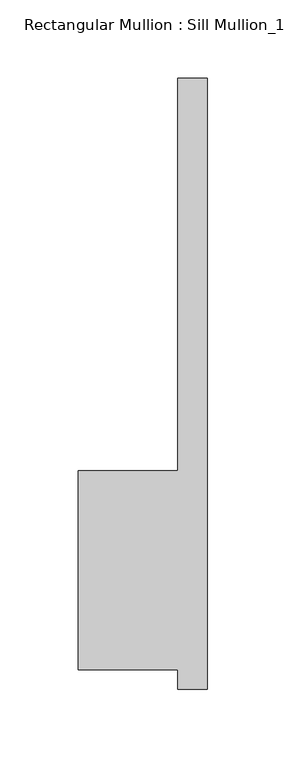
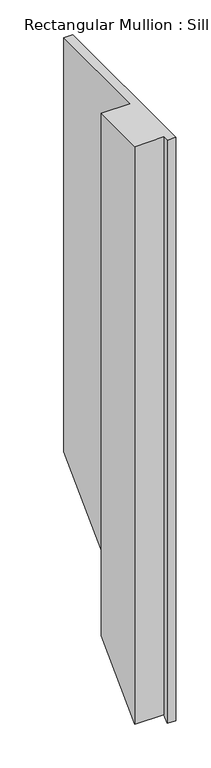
"""IFC4 building model written with IfcOpenShell, lengths in millimetres: member geometry."""

from ifc_helpers import new_model, si_unit, origin, place, context, project, spatial, faceted_brep, source, transform, mapped, element, save


def member_daf7d004(model_context):
    return source(origin(), model_context, "Body", "Brep", [
        faceted_brep([(-82.55, 50.8, 0.0), (-82.55, -76.2, 0.0), (-19.05, -76.2, 0.0), (-19.05, -88.9, 0.0), (0.0, -88.9, 0.0), (0.0, 301.625, 0.0), (-19.05, 301.625, 0.0), (-19.05, 50.8, 0.0), (-82.55, 50.8, -1207.5583333), (-82.55, -76.2, -1334.5583333), (-19.05, -76.2, -1334.5583333), (-19.05, -88.9, -1347.2583333), (0.0, -88.9, -1347.2583333), (0.0, 301.625, -956.7333333), (-19.05, 301.625, -956.7333333), (-19.05, 50.8, -1207.5583333)], [[[0, 1, 2, 3, 4, 5, 6, 7]], [[1, 0, 8, 9]], [[2, 1, 9, 10]], [[3, 2, 10, 11]], [[4, 3, 11, 12]], [[5, 4, 12, 13]], [[6, 5, 13, 14]], [[7, 6, 14, 15]], [[0, 7, 15, 8]], [[8, 15, 14, 13, 12, 11, 10, 9]]]),
    ])


if __name__ == "__main__":
    model = new_model("IFC4")
    model_context = context("Model", 3, world=origin())
    ifc_project = project(units=[si_unit("LENGTHUNIT", "METRE", prefix="MILLI")], contexts=[model_context])
    site = spatial("IfcSite", under=ifc_project)
    building = spatial("IfcBuilding", under=site)
    placement = place(None, origin())
    member_shape = member_daf7d004(model_context)
    element("IfcMember", 1, ObjectType="Rectangular Mullion : Sill Mullion_15\" thick wall", at=placement, inside=building, context=model_context, shape_type="MappedRepresentation", body=[
        mapped(member_shape, transform((0.0, 0.0, 0.0), x_axis=(1.0, 0.0, 0.0), y_axis=(0.0, 1.0, 0.0), z_axis=(0.0, 0.0, 1.0))),
    ])
    save(model, "model.ifc")
